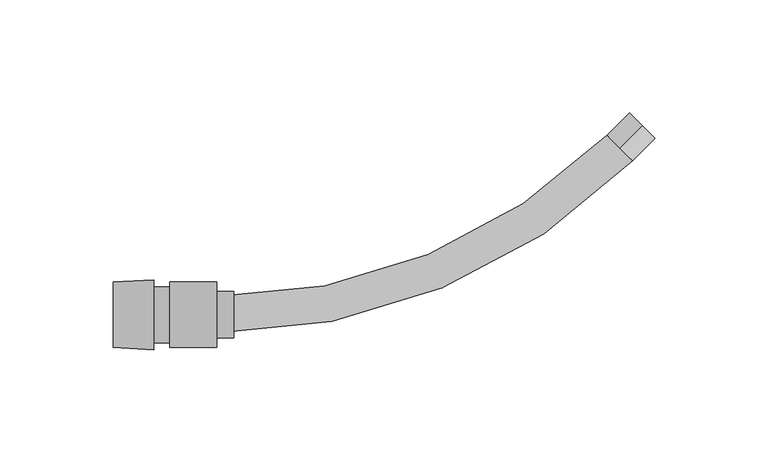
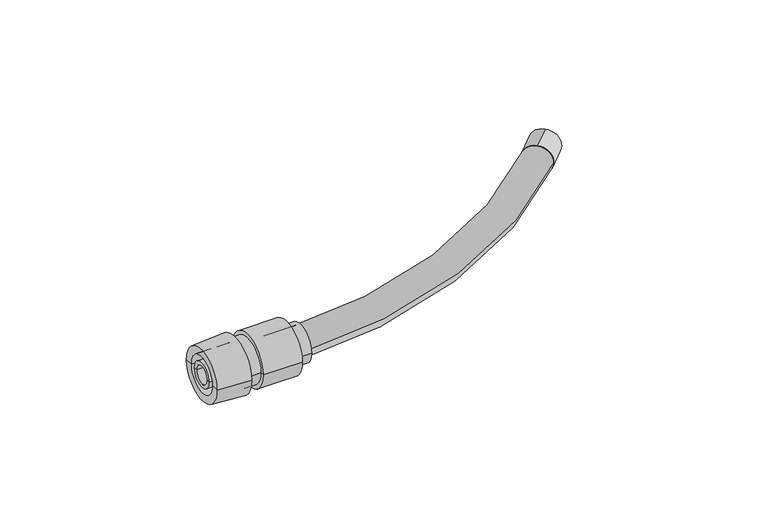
"""IFC4 building model written with IfcOpenShell, lengths in millimetres: cable carrier fitting geometry, КНС_МуфтаГибкаяТрубаКоробка_IP65_DKC : Коробка."""

from ifc_helpers import new_model, si_unit, point, frame, frame_2d, origin, place, context, project, spatial, polyline, circle_curve, ellipse_curve, trimmed, segment, composite_curve, outline, extrude, source, transform, mapped, element, save
from ifc_brep_helpers import plane_surface, cylinder_surface, revolved_surface, advanced_brep


def cable_carrier_fitting_d01f91c6(model_context):
    return source(origin(), model_context, "Body", "SolidModel", [
        advanced_brep(
        [(-96.9238313, -8.1853846, 0.0), (-96.9238313, 8.1853846, 0.0), (-132.4238313, 8.1853846, 0.0), (-132.4238313, -8.1853846, 0.0), (-96.9238313, -10.25, 0.0), (-96.9238313, 10.25, 0.0), (-104.4238313, -10.25, 0.0), (-104.4238313, 10.25, 0.0), (-104.4238313, -14.5, 0.0), (-104.4238313, 14.5, 0.0), (-125.4238313, -14.5, 0.0), (-125.4238313, 14.5, 0.0), (-125.4238313, -12.375, 0.0), (-125.4238313, 12.375, 0.0), (-132.4238313, -12.375, 0.0), (-132.4238313, 12.375, 0.0)],
        [
            (0, 1, circle_curve(frame((-96.9238313, 0.0, 0.0), z_axis=(1.0, 0.0, 0.0), x_axis=(0.0, 1.0, 0.0)), 8.1853846)),
            (1, 2),
            (2, 3, circle_curve(frame((-132.4238313, 0.0, 0.0), z_axis=(-1.0, 0.0, 0.0), x_axis=(0.0, 1.0, 0.0)), 8.1853846)),
            (3, 0),
            (1, 0, circle_curve(frame((-96.9238313, 0.0, 0.0), z_axis=(1.0, 0.0, 0.0), x_axis=(0.0, 1.0, 0.0)), 8.1853846)),
            (3, 2, circle_curve(frame((-132.4238313, 0.0, 0.0), z_axis=(-1.0, 0.0, 0.0), x_axis=(0.0, 1.0, 0.0)), 8.1853846)),
            (4, 5, circle_curve(frame((-96.9238313, 0.0, 0.0), z_axis=(1.0, 0.0, 0.0), x_axis=(0.0, 1.0, 0.0)), 10.25)),
            (5, 1),
            (0, 4),
            (5, 4, circle_curve(frame((-96.9238313, 0.0, 0.0), z_axis=(1.0, 0.0, 0.0), x_axis=(0.0, 1.0, 0.0)), 10.25)),
            (6, 7, circle_curve(frame((-104.4238313, 0.0, 0.0), z_axis=(1.0, 0.0, 0.0), x_axis=(0.0, 1.0, 0.0)), 10.25)),
            (7, 5),
            (4, 6),
            (7, 6, circle_curve(frame((-104.4238313, 0.0, 0.0), z_axis=(1.0, 0.0, 0.0), x_axis=(0.0, 1.0, 0.0)), 10.25)),
            (8, 9, circle_curve(frame((-104.4238313, 0.0, 0.0), z_axis=(1.0, 0.0, 0.0), x_axis=(0.0, 1.0, 0.0)), 14.5)),
            (9, 7),
            (6, 8),
            (9, 8, circle_curve(frame((-104.4238313, 0.0, 0.0), z_axis=(1.0, 0.0, 0.0), x_axis=(0.0, 1.0, 0.0)), 14.5)),
            (10, 11, circle_curve(frame((-125.4238313, 0.0, 0.0), z_axis=(1.0, 0.0, 0.0), x_axis=(0.0, 1.0, 0.0)), 14.5)),
            (11, 9),
            (8, 10),
            (11, 10, circle_curve(frame((-125.4238313, 0.0, 0.0), z_axis=(1.0, 0.0, 0.0), x_axis=(0.0, 1.0, 0.0)), 14.5)),
            (12, 13, circle_curve(frame((-125.4238313, 0.0, 0.0), z_axis=(1.0, 0.0, 0.0), x_axis=(0.0, 1.0, 0.0)), 12.375)),
            (13, 11),
            (10, 12),
            (13, 12, circle_curve(frame((-125.4238313, 0.0, 0.0), z_axis=(1.0, 0.0, 0.0), x_axis=(0.0, 1.0, 0.0)), 12.375)),
            (14, 15, circle_curve(frame((-132.4238313, 0.0, 0.0), z_axis=(1.0, 0.0, 0.0), x_axis=(0.0, 1.0, 0.0)), 12.375)),
            (15, 13),
            (12, 14),
            (15, 14, circle_curve(frame((-132.4238313, 0.0, 0.0), z_axis=(1.0, 0.0, 0.0), x_axis=(0.0, 1.0, 0.0)), 12.375)),
            (2, 15),
            (14, 3),
        ],
        [
            revolved_surface(polyline([(-132.42383130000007, 8.1853846, 0.0), (-96.92383130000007, 8.1853846, 0.0)]), (1391.5761687, 0.0, 0.0), (-1.0, 0.0, 0.0)),
            plane_surface(frame((-96.9238313, 0.0, 0.0), z_axis=(1.0, 0.0, 0.0), x_axis=(0.0, 1.0, 0.0))),
            cylinder_surface(frame((1391.5761687, 0.0, 0.0), z_axis=(-1.0, 0.0, 0.0), x_axis=(0.0, 1.0, 0.0)), 10.25),
            plane_surface(frame((-104.4238313, 0.0, 0.0), z_axis=(1.0, 0.0, 0.0), x_axis=(0.0, 1.0, 0.0))),
            cylinder_surface(frame((1391.5761687, 0.0, 0.0), z_axis=(-1.0, 0.0, 0.0), x_axis=(0.0, 1.0, 0.0)), 14.5),
            plane_surface(frame((-125.4238313, 0.0, 0.0), z_axis=(-1.0, 0.0, 0.0), x_axis=(0.0, 1.0, 0.0))),
            cylinder_surface(frame((1391.5761687, 0.0, 0.0), z_axis=(-1.0, 0.0, 0.0), x_axis=(0.0, 1.0, 0.0)), 12.375),
            plane_surface(frame((-132.4238313, 0.0, 0.0), z_axis=(-1.0, 0.0, 0.0), x_axis=(0.0, 1.0, 0.0))),
        ],
        [
            (0, [[1, 2, 3, 4]]),
            (0, [[5, -4, 6, -2]]),
            (1, [[7, 8, -1, 9]]),
            (1, [[10, -9, -5, -8]]),
            (2, [[11, 12, -7, 13]]),
            (2, [[14, -13, -10, -12]]),
            (3, [[15, 16, -11, 17]]),
            (3, [[18, -17, -14, -16]]),
            (4, [[19, 20, -15, 21]]),
            (4, [[22, -21, -18, -20]]),
            (5, [[23, 24, -19, 25]]),
            (5, [[26, -25, -22, -24]]),
            (6, [[27, 28, -23, 29]]),
            (6, [[30, -29, -26, -28]]),
            (7, [[-3, 31, -27, 32]]),
            (7, [[-6, -32, -30, -31]]),
        ],
    ),
        advanced_brep(
        [(-132.4238313, -15.5, 0.0), (-132.4238313, 15.5, 0.0), (-132.4238313, 10.25, 0.0), (-132.4238313, -10.25, 0.0), (-150.4238313, -14.5, 0.0), (-150.4238313, 14.5, 0.0), (-150.4238313, -10.25, 0.0), (-150.4238313, 10.25, 0.0)],
        [
            (0, 1, circle_curve(frame((-132.4238313, 0.0, 0.0), z_axis=(1.0, 0.0, 0.0), x_axis=(0.0, 1.0, 0.0)), 15.5)),
            (1, 2),
            (2, 3, circle_curve(frame((-132.4238313, 0.0, 0.0), z_axis=(-1.0, 0.0, 0.0), x_axis=(0.0, 1.0, 0.0)), 10.25)),
            (3, 0),
            (1, 0, circle_curve(frame((-132.4238313, 0.0, 0.0), z_axis=(1.0, 0.0, 0.0), x_axis=(0.0, 1.0, 0.0)), 15.5)),
            (3, 2, circle_curve(frame((-132.4238313, 0.0, 0.0), z_axis=(-1.0, 0.0, 0.0), x_axis=(0.0, 1.0, 0.0)), 10.25)),
            (4, 5, circle_curve(frame((-150.4238313, 0.0, 0.0), z_axis=(1.0, 0.0, 0.0), x_axis=(0.0, 1.0, 0.0)), 14.5)),
            (5, 1),
            (0, 4),
            (5, 4, circle_curve(frame((-150.4238313, 0.0, 0.0), z_axis=(1.0, 0.0, 0.0), x_axis=(0.0, 1.0, 0.0)), 14.5)),
            (6, 7, circle_curve(frame((-150.4238313, 0.0, 0.0), z_axis=(1.0, 0.0, 0.0), x_axis=(0.0, 1.0, 0.0)), 10.25)),
            (7, 5),
            (4, 6),
            (7, 6, circle_curve(frame((-150.4238313, 0.0, 0.0), z_axis=(1.0, 0.0, 0.0), x_axis=(0.0, 1.0, 0.0)), 10.25)),
            (2, 7),
            (6, 3),
        ],
        [
            plane_surface(frame((-132.4238313, 0.0, 0.0), z_axis=(1.0, 0.0, 0.0), x_axis=(0.0, 1.0, 0.0))),
            revolved_surface(polyline([(-132.4238313, 15.5, 0.0), (-150.4238313, 14.5, 0.0)]), (1391.5761687, 0.0, 0.0), (-1.0, 0.0, 0.0)),
            plane_surface(frame((-150.4238313, 0.0, 0.0), z_axis=(-1.0, 0.0, 0.0), x_axis=(0.0, 1.0, 0.0))),
            revolved_surface(polyline([(-150.42383130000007, 10.25, 0.0), (-132.42383130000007, 10.25, 0.0)]), (1391.5761687, 0.0, 0.0), (-1.0, 0.0, 0.0)),
        ],
        [
            (0, [[1, 2, 3, 4]]),
            (0, [[5, -4, 6, -2]]),
            (1, [[7, 8, -1, 9]]),
            (1, [[10, -9, -5, -8]]),
            (2, [[11, 12, -7, 13]]),
            (2, [[14, -13, -10, -12]]),
            (3, [[-3, 15, -11, 16]]),
            (3, [[-6, -16, -14, -15]]),
        ],
    ),
        advanced_brep(
        [(-150.4238313, -7.0, 0.0), (-150.4238313, 7.0, 0.0), (-132.4238313, 7.0, 0.0), (-132.4238313, -7.0, 0.0), (-150.4238313, -5.0, 0.0), (-150.4238313, 5.0, 0.0), (-132.4238313, -5.0, 0.0), (-132.4238313, 5.0, 0.0)],
        [
            (0, 1, circle_curve(frame((-150.4238313, 0.0, 0.0), z_axis=(1.0, 0.0, 0.0), x_axis=(0.0, 1.0, 0.0)), 7.0)),
            (1, 2),
            (2, 3, circle_curve(frame((-132.4238313, 0.0, 0.0), z_axis=(-1.0, 0.0, 0.0), x_axis=(0.0, 1.0, 0.0)), 7.0)),
            (3, 0),
            (1, 0, circle_curve(frame((-150.4238313, 0.0, 0.0), z_axis=(1.0, 0.0, 0.0), x_axis=(0.0, 1.0, 0.0)), 7.0)),
            (3, 2, circle_curve(frame((-132.4238313, 0.0, 0.0), z_axis=(-1.0, 0.0, 0.0), x_axis=(0.0, 1.0, 0.0)), 7.0)),
            (4, 5, circle_curve(frame((-150.4238313, 0.0, 0.0), z_axis=(1.0, 0.0, 0.0), x_axis=(0.0, 1.0, 0.0)), 5.0)),
            (5, 1),
            (0, 4),
            (5, 4, circle_curve(frame((-150.4238313, 0.0, 0.0), z_axis=(1.0, 0.0, 0.0), x_axis=(0.0, 1.0, 0.0)), 5.0)),
            (6, 7, circle_curve(frame((-132.4238313, 0.0, 0.0), z_axis=(1.0, 0.0, 0.0), x_axis=(0.0, 1.0, 0.0)), 5.0)),
            (7, 5),
            (4, 6),
            (7, 6, circle_curve(frame((-132.4238313, 0.0, 0.0), z_axis=(1.0, 0.0, 0.0), x_axis=(0.0, 1.0, 0.0)), 5.0)),
            (2, 7),
            (6, 3),
        ],
        [
            cylinder_surface(frame((1391.5761687, 0.0, 0.0), z_axis=(-1.0, 0.0, 0.0), x_axis=(0.0, 1.0, 0.0)), 7.0),
            plane_surface(frame((-150.4238313, 0.0, 0.0), z_axis=(-1.0, 0.0, 0.0), x_axis=(0.0, 1.0, 0.0))),
            revolved_surface(polyline([(-150.42383130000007, 5.0, 0.0), (-132.42383130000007, 5.0, 0.0)]), (1391.5761687, 0.0, 0.0), (-1.0, 0.0, 0.0)),
            plane_surface(frame((-132.4238313, 0.0, 0.0), z_axis=(1.0, 0.0, 0.0), x_axis=(0.0, 1.0, 0.0))),
        ],
        [
            (0, [[1, 2, 3, 4]]),
            (0, [[5, -4, 6, -2]]),
            (1, [[7, 8, -1, 9]]),
            (1, [[10, -9, -5, -8]]),
            (2, [[11, 12, -7, 13]]),
            (2, [[14, -13, -10, -12]]),
            (3, [[-3, 15, -11, 16]]),
            (3, [[-6, -16, -14, -15]]),
        ],
    ),
        extrude(outline(composite_curve([segment(trimmed(circle_curve(frame_2d((0.0, -8.0)), 8.0), [point((0.0, -16.0))], [point((0.0, 0.0))], False, "CARTESIAN"), True, "CONTINUOUS"), segment(trimmed(circle_curve(frame_2d((0.0, -8.0)), 8.0), [point((0.0, 0.0))], [point((0.0, -16.0))], False, "CARTESIAN"), True, "CONTINUOUS")], self_intersect=False), holes=[composite_curve([segment(trimmed(circle_curve(frame_2d((0.0, -8.0)), 7.0), [point((0.0, -15.0))], [point((0.0, -1.0))], True, "CARTESIAN"), True, "CONTINUOUS"), segment(trimmed(circle_curve(frame_2d((0.0, -8.0)), 7.0), [point((0.0, -1.0))], [point((0.0, -15.0))], True, "CARTESIAN"), True, "CONTINUOUS")], self_intersect=False)]), frame((73.8387993, 73.8387993, 8.0), z_axis=(0.7071067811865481, 0.7071067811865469, 0.0), x_axis=(-0.7071067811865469, 0.7071067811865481, 0.0)), (0.0, 0.0, 1.0), 14.0),
        advanced_brep(
        [(68.181945, 79.4956535, 0.0), (79.4956535, 68.181945, 0.0), (-104.4238313, 8.0, 0.0), (-104.4238313, -8.0, 0.0)],
        [
            (0, 1, circle_curve(frame((73.8387993, 73.8387993, 0.0), z_axis=(0.7071067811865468, 0.7071067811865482, 0.0), x_axis=(0.7071067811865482, -0.7071067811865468, 0.0)), 8.0)),
            (1, 0, circle_curve(frame((73.8387993, 73.8387993, 0.0), z_axis=(0.7071067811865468, 0.7071067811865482, 0.0), x_axis=(0.7071067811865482, -0.7071067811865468, 0.0)), 8.0)),
            (2, 3, circle_curve(frame((-104.4238313, 0.0, 0.0), z_axis=(-1.0, 0.0, 0.0), x_axis=(0.0, -1.0, 0.0)), 8.0)),
            (3, 2, circle_curve(frame((-104.4238313, 0.0, 0.0), z_axis=(-1.0, 0.0, 0.0), x_axis=(0.0, -1.0, 0.0)), 8.0)),
            (3, 1, circle_curve(frame((-104.4238313, 252.1014299, 0.0), z_axis=(0.0, 0.0, 1.0), x_axis=(0.7071067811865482, -0.7071067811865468, 0.0)), 260.1014299)),
            (0, 2, circle_curve(frame((-104.4238313, 252.1014299, 0.0), z_axis=(0.0, 0.0, -1.0), x_axis=(0.7071067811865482, -0.7071067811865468, 0.0)), 244.1014299)),
        ],
        [
            plane_surface(frame((73.8387993, 73.8387993, 0.0), z_axis=(0.7071067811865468, 0.7071067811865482, 0.0), x_axis=(0.0, 0.0, 1.0))),
            plane_surface(frame((-104.4238313, 0.0, 0.0), z_axis=(-1.0, 0.0, 0.0), x_axis=(0.0, 0.0, 1.0))),
            revolved_surface(trimmed(ellipse_curve(frame((73.8387993, 73.8387993, 0.0), z_axis=(0.7071067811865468, 0.7071067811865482, 0.0), x_axis=(0.7071067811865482, -0.7071067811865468, 0.0)), 8.0, 8.0), [point((68.181945, 79.4956535, 0.0))], [point((79.4956535, 68.181945, 0.0))], True, "CARTESIAN"), (-104.4238313, 252.1014299, 0.0), (0.0, 0.0, -1.0)),
            revolved_surface(trimmed(ellipse_curve(frame((73.8387993, 73.8387993, 0.0), z_axis=(0.7071067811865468, 0.7071067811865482, 0.0), x_axis=(0.7071067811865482, -0.7071067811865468, 0.0)), 8.0, 8.0), [point((79.4956535, 68.181945, 0.0))], [point((68.181945, 79.4956535, 0.0))], True, "CARTESIAN"), (-104.4238313, 252.1014299, 0.0), (0.0, 0.0, -1.0)),
        ],
        [
            (0, [[1, 2]]),
            (1, [[3, 4]]),
            (2, [[5, -1, 6, -4]]),
            (3, [[-6, -2, -5, -3]]),
        ],
    ),
    ])


if __name__ == "__main__":
    model = new_model("IFC4")
    model_context = context("Model", 3, world=origin())
    ifc_project = project(units=[si_unit("LENGTHUNIT", "METRE", prefix="MILLI")], contexts=[model_context])
    site = spatial("IfcSite", under=ifc_project)
    building = spatial("IfcBuilding", under=site)
    placement = place(None, origin())
    cable_carrier_fitting_shape = cable_carrier_fitting_d01f91c6(model_context)
    element("IfcCableCarrierFitting", 1, ObjectType="КНС_МуфтаГибкаяТрубаКоробка_IP65_DKC : Коробка", at=placement, inside=building, context=model_context, shape_type="MappedRepresentation", body=[
        mapped(cable_carrier_fitting_shape, transform((0.0, 0.0, 0.0), x_axis=(1.0, 0.0, 0.0), y_axis=(0.0, 1.0, 0.0), z_axis=(0.0, 0.0, 1.0))),
    ])
    save(model, "model.ifc")
